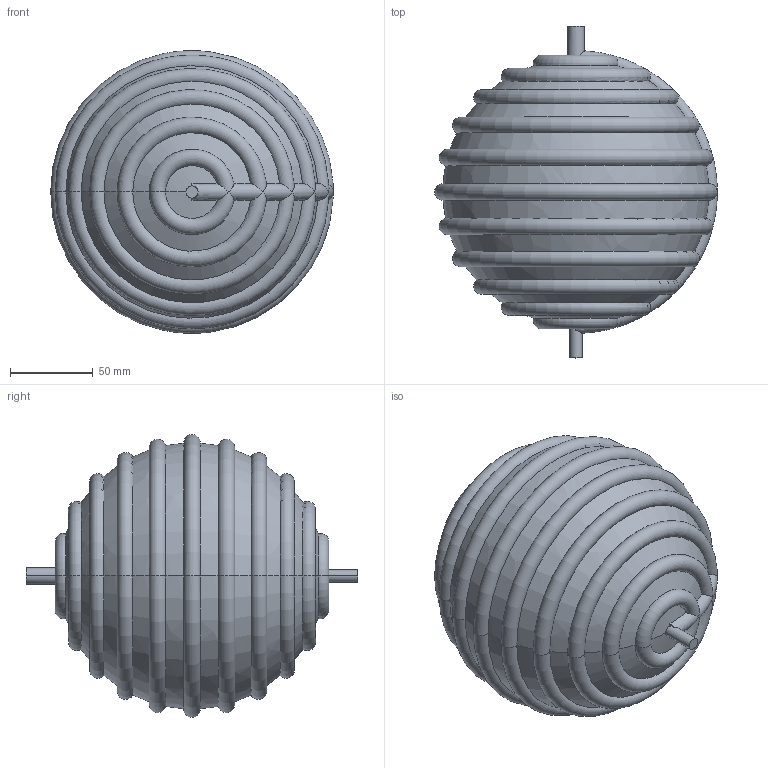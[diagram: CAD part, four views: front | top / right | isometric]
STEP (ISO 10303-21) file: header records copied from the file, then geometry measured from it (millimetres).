
FILE_DESCRIPTION (( 'STEP AP203' ), '1' );
FILE_NAME ('terre_Défaut_sldprt.STEP', '2018-04-06T14:29:02', ( '' ), ( '' ), 'SwSTEP 2.0', 'SolidWorks 2013', '' );
FILE_SCHEMA (( 'CONFIG_CONTROL_DESIGN' ));
Length unit declared in the file: millimetre
Products named in the file (1): terre_Défaut_sldprt
Bounding box: 170.29 x 200 x 170.28 mm (x, y, z)
Volume: 2186020.9 mm3; surface area: 122417.4 mm2
Topology: 1 solids, 2 shells, 73 faces, 175 edges, 105 vertices
Faces by surface type: torus 34, sphere 25, cylinder 8, plane 6
Entity records: 3039 total; most frequent: CARTESIAN_POINT 1293, DIRECTION 380, ORIENTED_EDGE 346, AXIS2_PLACEMENT_3D 185, EDGE_CURVE 173, CIRCLE 111, VERTEX_POINT 104, EDGE_LOOP 73
